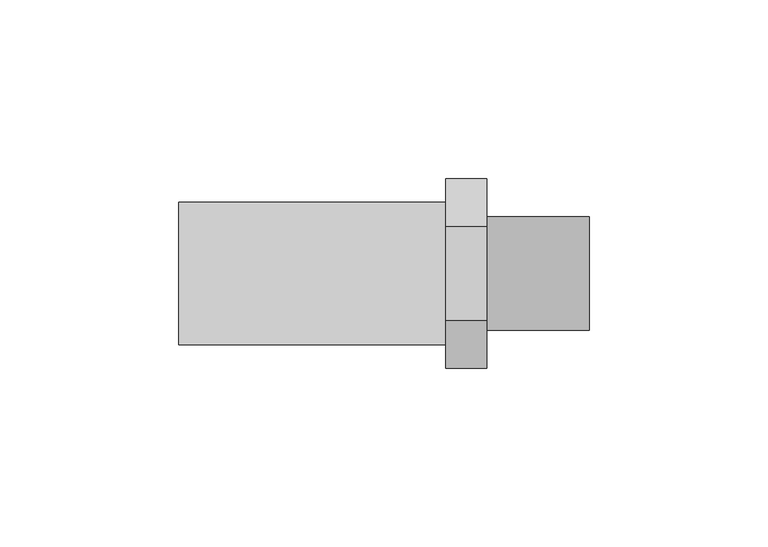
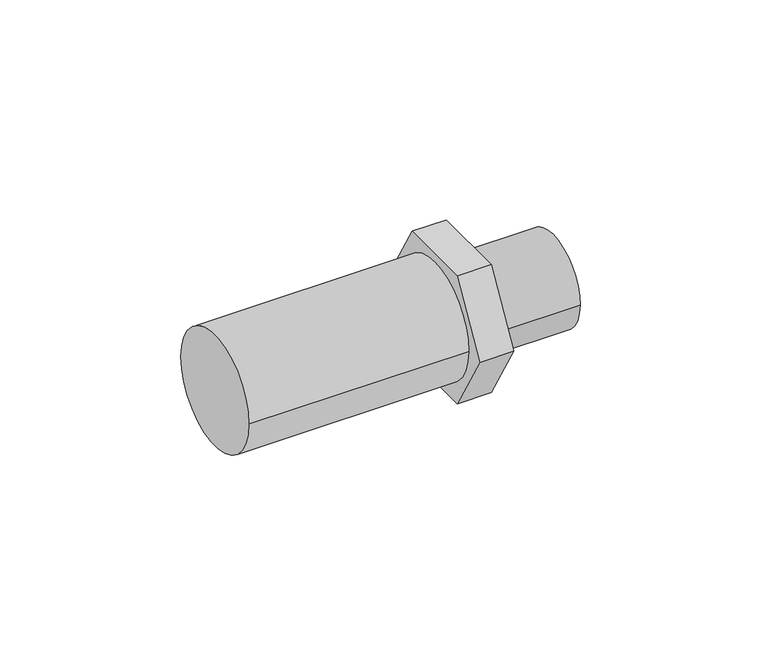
"""IFC4 building model written with IfcOpenShell, lengths in millimetres: pipe fitting geometry, 01011113 : Adaptadores para tubo."""

import ifcopenshell
import ifcopenshell.guid

model = None  # the IFC model being written
_history = None  # IfcOwnerHistory: only IFC2X3 demands one
_inside = {}  # id of a spatial element -> (the spatial element, [elements in it])
_under = {}  # id of a project, library or spatial element -> (it, [spatial elements below it])
_declared = {}  # id of a project -> (the project, [libraries it declares])
_typed = {}  # id of a type object -> (the type object, [elements of that type])
_made_of = {}  # id of a material, layer set ... -> (it, [elements and type objects made of it])


def new_model(schema):
    """Start an empty IFC model of exactly this schema.

    Asked for "IFC4X3", IfcOpenShell would pick the latest addendum, in which some entities
    have other attributes; the version numbers below select the first issue.
    IFC2X3 requires an IfcOwnerHistory on every rooted entity: one is made here for all.
    """
    global model, _history
    if schema == "IFC4X3":
        model = ifcopenshell.file(schema_version=(4, 3, 0, 0))
    else:
        model = ifcopenshell.file(schema=schema)
    _inside.clear()
    _under.clear()
    _declared.clear()
    _typed.clear()
    _made_of.clear()
    _history = None
    if model.schema == "IFC2X3":
        org = make("IfcOrganization", Name="unknown")
        user = make(
            "IfcPersonAndOrganization",
            ThePerson=make("IfcPerson", FamilyName="unknown"),
            TheOrganization=org,
        )
        app = make(
            "IfcApplication",
            ApplicationDeveloper=org,
            Version="unknown",
            ApplicationFullName="unknown",
            ApplicationIdentifier="unknown",
        )
        _history = make(
            "IfcOwnerHistory",
            OwningUser=user,
            OwningApplication=app,
            ChangeAction="ADDED",
            CreationDate=0,
        )
    return model


def make(cls, **values):
    """One entity of the class cls with the attributes given. An attribute that is None is left unset."""
    return model.create_entity(
        cls, **{name: value for name, value in values.items() if value is not None}
    )


def rooted(cls, **values):
    """An entity with a GlobalId (a new one), such as an element, a storey or a relation."""
    return make(cls, GlobalId=ifcopenshell.guid.new(), OwnerHistory=_history, **values)


def si_unit(unit_type, name, prefix=None):
    """IfcSIUnit, for example si_unit("LENGTHUNIT", "METRE", prefix="MILLI")."""
    return make("IfcSIUnit", UnitType=unit_type, Prefix=prefix, Name=name)


def assignment(units):
    """IfcUnitAssignment: the units of a project."""
    return None if units is None else make("IfcUnitAssignment", Units=units)


def point(xyz):
    """IfcCartesianPoint."""
    return None if xyz is None else make("IfcCartesianPoint", Coordinates=xyz)


def direction(xyz):
    """IfcDirection."""
    return None if xyz is None else make("IfcDirection", DirectionRatios=xyz)


def frame(location, z_axis=None, x_axis=None):
    """IfcAxis2Placement3D, a coordinate frame: its origin and axes. An axis left out is left unset."""
    return make(
        "IfcAxis2Placement3D",
        Location=point(location),
        Axis=direction(z_axis),
        RefDirection=direction(x_axis),
    )


def frame_2d(location, x_axis=None):
    """IfcAxis2Placement2D, a coordinate frame in the plane: its origin and x axis."""
    return make(
        "IfcAxis2Placement2D", Location=point(location), RefDirection=direction(x_axis)
    )


def origin():
    """The frame at (0, 0, 0) with its axes left unset."""
    return frame((0.0, 0.0, 0.0))


def origin_2d():
    """The frame at (0, 0) in the plane with its x axis left unset."""
    return frame_2d((0.0, 0.0))


def place(relative_to, where):
    """IfcLocalPlacement: puts the frame where relative to a parent placement (None: the world)."""
    return make(
        "IfcLocalPlacement", PlacementRelTo=relative_to, RelativePlacement=where
    )


def context(
    kind, dimensions, precision=None, world=None, true_north=None, identifier=None
):
    """IfcGeometricRepresentationContext, for example the 3D "Model" context."""
    return make(
        "IfcGeometricRepresentationContext",
        ContextIdentifier=identifier,
        ContextType=kind,
        CoordinateSpaceDimension=dimensions,
        Precision=precision,
        WorldCoordinateSystem=world,
        TrueNorth=true_north,
    )


def project(units=None, contexts=None):
    """IfcProject with its units and contexts."""
    return rooted(
        "IfcProject",
        Name="project",
        RepresentationContexts=contexts,
        UnitsInContext=assignment(units),
    )


def spatial(cls, under=None, at=None, **own):
    """A site, building, storey or space (cls), placed at a placement, below another one or the project."""
    s = rooted(cls, ObjectPlacement=at, **own)
    if under is not None:
        _under.setdefault(under.id(), (under, []))[1].append(s)
    return s


def circle_curve(where, radius):
    """IfcCircle in the frame where."""
    return make("IfcCircle", Position=where, Radius=radius)


def trimmed(basis, trim1, trim2, sense, master):
    """IfcTrimmedCurve: the piece of a basis curve between two trims."""
    return make(
        "IfcTrimmedCurve",
        BasisCurve=basis,
        Trim1=trim1,
        Trim2=trim2,
        SenseAgreement=sense,
        MasterRepresentation=master,
    )


def segment(curve, same_sense, transition):
    """IfcCompositeCurveSegment."""
    return make(
        "IfcCompositeCurveSegment",
        Transition=transition,
        SameSense=same_sense,
        ParentCurve=curve,
    )


def composite_curve(segments, self_intersect=None):
    """IfcCompositeCurve: segments joined end to end."""
    return make("IfcCompositeCurve", Segments=segments, SelfIntersect=self_intersect)


def outline(outer, holes=None, kind="AREA"):
    """IfcArbitraryClosedProfileDef: a profile drawn as a closed curve; with holes, ...WithVoids."""
    if holes is None:
        return make("IfcArbitraryClosedProfileDef", ProfileType=kind, OuterCurve=outer)
    return make(
        "IfcArbitraryProfileDefWithVoids",
        ProfileType=kind,
        OuterCurve=outer,
        InnerCurves=holes,
    )


def extrude(swept, where, along, depth):
    """IfcExtrudedAreaSolid: the profile swept, set in the frame where, extruded along a direction by depth."""
    return make(
        "IfcExtrudedAreaSolid",
        SweptArea=swept,
        Position=where,
        ExtrudedDirection=direction(along),
        Depth=depth,
    )


def shape(context_of_items, identifier, shape_type, items):
    """IfcShapeRepresentation: the items that make up one representation, for example the "Body"."""
    return make(
        "IfcShapeRepresentation",
        ContextOfItems=context_of_items,
        RepresentationIdentifier=identifier,
        RepresentationType=shape_type,
        Items=items,
    )


def source(mapping_origin, context_of_items, identifier, shape_type, items):
    """IfcRepresentationMap: a shape defined once, which mapped items show again and again."""
    return make(
        "IfcRepresentationMap",
        MappingOrigin=mapping_origin,
        MappedRepresentation=shape(context_of_items, identifier, shape_type, items),
    )


def transform(
    local_origin,
    x_axis=None,
    y_axis=None,
    z_axis=None,
    scale=None,
    scale2=None,
    scale3=None,
    uniform=True,
):
    """IfcCartesianTransformationOperator3D, or its non-uniform kind. x_axis, y_axis, z_axis: its Axis1, 2, 3."""
    if uniform:
        return make(
            "IfcCartesianTransformationOperator3D",
            Axis1=direction(x_axis),
            Axis2=direction(y_axis),
            LocalOrigin=point(local_origin),
            Scale=scale,
            Axis3=direction(z_axis),
        )
    return make(
        "IfcCartesianTransformationOperator3DnonUniform",
        Axis1=direction(x_axis),
        Axis2=direction(y_axis),
        LocalOrigin=point(local_origin),
        Scale=scale,
        Axis3=direction(z_axis),
        Scale2=scale2,
        Scale3=scale3,
    )


def mapped(mapping_source, mapping_target):
    """IfcMappedItem: shows the shape of a source again, moved by a transform."""
    return make(
        "IfcMappedItem", MappingSource=mapping_source, MappingTarget=mapping_target
    )


def made_of(thing, what):
    """Note that an element or type object is made of a material, layer set ...; save() writes the relation."""
    if what is not None:
        _made_of.setdefault(what.id(), (what, []))[1].append(thing)
    return thing


def element(
    cls,
    number,
    at=None,
    inside=None,
    cuts=None,
    type_object=None,
    material=None,
    context=None,
    identifier="Body",
    shape_type=None,
    held_by="IfcProductDefinitionShape",
    body=None,
    shapes=None,
    **own,
):
    """One element of the class cls, such as IfcWall. Its Tag is "e" and its number.

    at: its placement. inside: the storey or other place that contains it. cuts: it is an
    opening in that element (IfcRelVoidsElement). A single representation is given by context,
    identifier, shape_type and body (its items); several are given by shapes. held_by: the class
    of the entity that holds the representations. save() writes the other relations.
    """
    e = rooted(cls, Tag="e%d" % number, ObjectPlacement=at, **own)
    if body is not None:
        shapes = [shape(context, identifier, shape_type, body)]
    if shapes is not None:
        e.Representation = make(held_by, Representations=shapes)
    if inside is not None:
        _inside.setdefault(inside.id(), (inside, []))[1].append(e)
    if cuts is not None:
        rooted(
            "IfcRelVoidsElement", RelatingBuildingElement=cuts, RelatedOpeningElement=e
        )
    if type_object is not None:
        _typed.setdefault(type_object.id(), (type_object, []))[1].append(e)
    return made_of(e, material)


def aggregate(whole, parts):
    """IfcRelAggregates: a whole, such as a stair, and the parts it consists of."""
    return rooted("IfcRelAggregates", RelatingObject=whole, RelatedObjects=parts)


def save(model, path):
    """Write the relations noted so far, then the file.

    IfcRelAggregates (storeys below a building ...), IfcRelContainedInSpatialStructure (elements
    in a storey), IfcRelDefinesByType, IfcRelAssociatesMaterial and IfcRelDeclares: one each for
    every whole, place, type object, material and project.
    """
    for whole, parts in _under.values():
        aggregate(whole, parts)
    for where, things in _inside.values():
        rooted(
            "IfcRelContainedInSpatialStructure",
            RelatedElements=things,
            RelatingStructure=where,
        )
    for kind, things in _typed.values():
        rooted("IfcRelDefinesByType", RelatedObjects=things, RelatingType=kind)
    for what, things in _made_of.values():
        rooted("IfcRelAssociatesMaterial", RelatedObjects=things, RelatingMaterial=what)
    for by, libraries in _declared.values():
        rooted("IfcRelDeclares", RelatingContext=by, RelatedDefinitions=libraries)
    model.write(path)


def plane_surface(at):
    """IfcPlane: the flat surface through the origin of the frame at, square to its z axis."""
    return make("IfcPlane", Position=at)


def cylinder_surface(at, radius):
    """IfcCylindricalSurface: all points at the distance radius from the z axis of the frame at."""
    return make("IfcCylindricalSurface", Position=at, Radius=radius)


def advanced_brep(points, edges, surfaces, faces):
    """IfcAdvancedBrep: a solid bounded by faces that lie on surfaces and meet in shared edges.

    An edge is (start, end): straight between two places in points (the first is 0);
    or (start, end, curve); or (start, end, curve, False) where it runs against its curve.
    A face is (place in surfaces, loops), or (place, loops, False) where it looks against
    its surface's normal. A loop lists edges by number (the first is 1), with a minus sign
    where the edge is run from its end to its start. The first loop is the outer one.
    """
    corners = [point(p) for p in points]
    vertices = [make("IfcVertexPoint", VertexGeometry=c) for c in corners]
    made = []
    for start, end, *more in edges:
        made.append(
            make(
                "IfcEdgeCurve",
                EdgeStart=vertices[start],
                EdgeEnd=vertices[end],
                EdgeGeometry=more[0] if more else make("IfcPolyline", Points=[corners[start], corners[end]]),
                SameSense=more[1] if len(more) > 1 else True,
            )
        )
    hull = []
    for where, loops, *sense in faces:
        bounds = []
        for j, loop in enumerate(loops):
            ring = [make("IfcOrientedEdge", EdgeElement=made[abs(k) - 1], Orientation=k > 0) for k in loop]
            bounds.append(
                make(
                    "IfcFaceOuterBound" if j == 0 else "IfcFaceBound",
                    Bound=make("IfcEdgeLoop", EdgeList=ring),
                    Orientation=True,
                )
            )
        hull.append(make("IfcAdvancedFace", Bounds=bounds, FaceSurface=surfaces[where], SameSense=sense[0] if sense else True))
    return make("IfcAdvancedBrep", Outer=make("IfcClosedShell", CfsFaces=hull))


def pipe_fitting_2780150c(model_context):
    return source(origin(), model_context, "Body", "SolidModel", [
        extrude(outline(composite_curve([segment(trimmed(circle_curve(origin_2d(), 20.0), [point((20.0, 0.0))], [point((-20.0, 0.0))], False, "CARTESIAN"), True, "CONTINUOUS"), segment(trimmed(circle_curve(origin_2d(), 20.0), [point((-20.0, 0.0))], [point((20.0, 0.0))], False, "CARTESIAN"), True, "CONTINUOUS")], self_intersect=False)), frame((-57.5, 0.0, 0.0), z_axis=(1.0, 0.0, 0.0), x_axis=(0.0, 1.0, 0.0)), (0.0, 0.0, 1.0), 74.75),
        advanced_brep(
        [(28.75, -13.2790562, 23.0), (28.75, -26.5581124, 0.0), (28.75, -13.2790562, -23.0), (28.75, 13.2790562, -23.0), (28.75, 26.5581124, 0.0), (28.75, 13.2790562, 23.0), (28.75, -15.875, 0.0), (28.75, 15.875, 0.0), (17.25, -13.2790562, 23.0), (17.25, 13.2790562, 23.0), (17.25, 26.5581124, 0.0), (17.25, 13.2790562, -23.0), (17.25, -13.2790562, -23.0), (17.25, -26.5581124, 0.0), (57.5, -15.875, 0.0), (57.5, 15.875, 0.0)],
        [
            (0, 1),
            (1, 2),
            (2, 3),
            (3, 4),
            (4, 5),
            (5, 0),
            (6, 7, circle_curve(frame((28.75, 0.0, 0.0), z_axis=(-1.0, 0.0, 0.0), x_axis=(0.0, 1.0, 0.0)), 15.875)),
            (7, 6, circle_curve(frame((28.75, 0.0, 0.0), z_axis=(-1.0, 0.0, 0.0), x_axis=(0.0, 1.0, 0.0)), 15.875)),
            (8, 9),
            (9, 10),
            (10, 11),
            (11, 12),
            (12, 13),
            (13, 8),
            (0, 8),
            (13, 1),
            (12, 2),
            (11, 3),
            (10, 4),
            (9, 5),
            (14, 15, circle_curve(frame((57.5, 0.0, 0.0), z_axis=(1.0, 0.0, 0.0), x_axis=(0.0, 1.0, 0.0)), 15.875)),
            (15, 14, circle_curve(frame((57.5, 0.0, 0.0), z_axis=(1.0, 0.0, 0.0), x_axis=(0.0, 1.0, 0.0)), 15.875)),
            (15, 7),
            (6, 14),
        ],
        [
            plane_surface(frame((28.75, -13.2790562, 23.0), z_axis=(1.0, 0.0, 0.0), x_axis=(0.0, -0.500000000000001, -0.8660254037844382))),
            plane_surface(frame((17.25, -13.2790562, 23.0), z_axis=(-1.0, 0.0, 0.0), x_axis=(0.0, 0.500000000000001, 0.8660254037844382))),
            plane_surface(frame((28.75, -13.2790562, 23.0), z_axis=(0.0, -0.8660254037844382, 0.500000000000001), x_axis=(-1.0, 0.0, 0.0))),
            plane_surface(frame((28.75, -26.5581124, 0.0), z_axis=(0.0, -0.8660254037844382, -0.5000000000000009), x_axis=(-1.0, 0.0, 0.0))),
            plane_surface(frame((28.75, -13.2790562, -23.0), z_axis=(0.0, 0.0, -1.0), x_axis=(-1.0, 0.0, 0.0))),
            plane_surface(frame((28.75, 13.2790562, -23.0), z_axis=(0.0, 0.8660254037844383, -0.5000000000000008), x_axis=(-1.0, 0.0, 0.0))),
            plane_surface(frame((28.75, 26.5581124, 0.0), z_axis=(0.0, 0.8660254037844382, 0.500000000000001), x_axis=(-1.0, 0.0, 0.0))),
            plane_surface(frame((28.75, 13.2790562, 23.0), z_axis=(0.0, 0.0, 1.0), x_axis=(-1.0, 0.0, 0.0))),
            plane_surface(frame((57.5, 0.0, 0.0), z_axis=(1.0, 0.0, 0.0), x_axis=(0.0, 0.0, 1.0))),
            cylinder_surface(frame((28.75, 0.0, 0.0), z_axis=(-1.0, 0.0, 0.0), x_axis=(0.0, 1.0, 0.0)), 15.875),
        ],
        [
            (0, [[1, 2, 3, 4, 5, 6], [7, 8]]),
            (1, [[9, 10, 11, 12, 13, 14]]),
            (2, [[-1, 15, -14, 16]]),
            (3, [[-2, -16, -13, 17]]),
            (4, [[-3, -17, -12, 18]]),
            (5, [[-4, -18, -11, 19]]),
            (6, [[-5, -19, -10, 20]]),
            (7, [[-6, -20, -9, -15]]),
            (8, [[21, 22]]),
            (9, [[-22, 23, -7, 24]]),
            (9, [[-21, -24, -8, -23]]),
        ],
    ),
    ])


if __name__ == "__main__":
    model = new_model("IFC4")
    model_context = context("Model", 3, world=origin())
    ifc_project = project(units=[si_unit("LENGTHUNIT", "METRE", prefix="MILLI")], contexts=[model_context])
    site = spatial("IfcSite", under=ifc_project)
    building = spatial("IfcBuilding", under=site)
    placement = place(None, origin())
    pipe_fitting_shape = pipe_fitting_2780150c(model_context)
    element("IfcPipeFitting", 1, ObjectType="01011113 : Adaptadores para tubo", at=placement, inside=building, context=model_context, shape_type="MappedRepresentation", body=[
        mapped(pipe_fitting_shape, transform((0.0, 0.0, 0.0), x_axis=(1.0, 0.0, 0.0), y_axis=(0.0, 1.0, 0.0), z_axis=(0.0, 0.0, 1.0))),
    ])
    save(model, "model.ifc")
